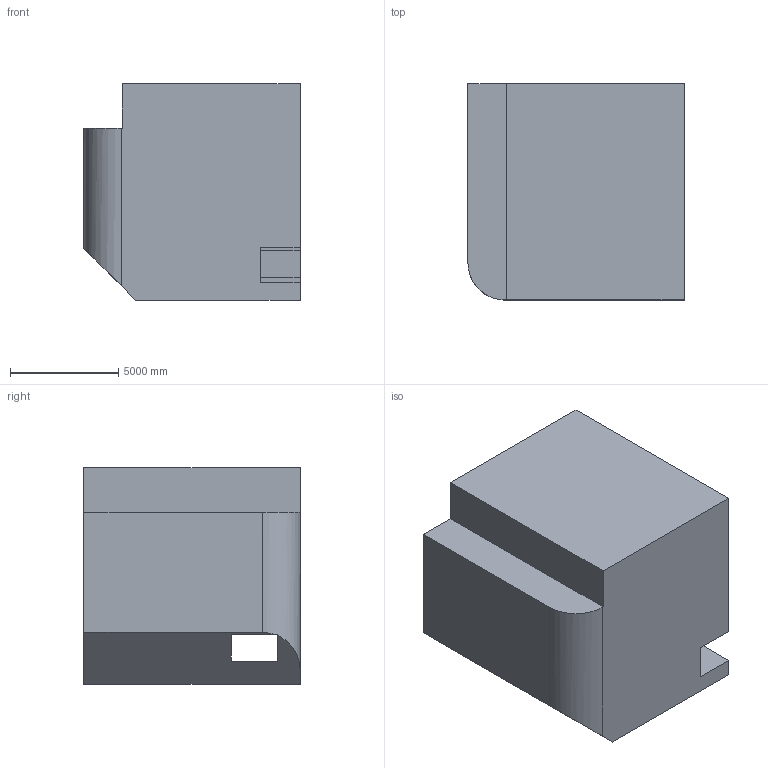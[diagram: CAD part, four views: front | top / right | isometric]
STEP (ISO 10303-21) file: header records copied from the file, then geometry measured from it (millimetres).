
FILE_DESCRIPTION (( 'STEP AP203' ), '1' );
FILE_NAME ('510.STEP', '2022-07-29T11:34:47', ( 'user' ), ( '' ), 'SwSTEP 2.0', 'SolidWorks 2021', '' );
FILE_SCHEMA (( 'CONFIG_CONTROL_DESIGN' ));
Length unit declared in the file: centimetre
Products named in the file (1): 510
Bounding box: 10000 x 10000 x 10000 mm (x, y, z)
Volume: 886385285345.7 mm3; surface area: 630499991.3 mm2
Topology: 1 solids, 1 shells, 23 faces, 69 edges, 46 vertices
Faces by surface type: plane 20, cylinder 3
Entity records: 850 total; most frequent: CARTESIAN_POINT 145, ORIENTED_EDGE 138, DIRECTION 121, EDGE_CURVE 69, VECTOR 61, LINE 61, VERTEX_POINT 46, AXIS2_PLACEMENT_3D 30
